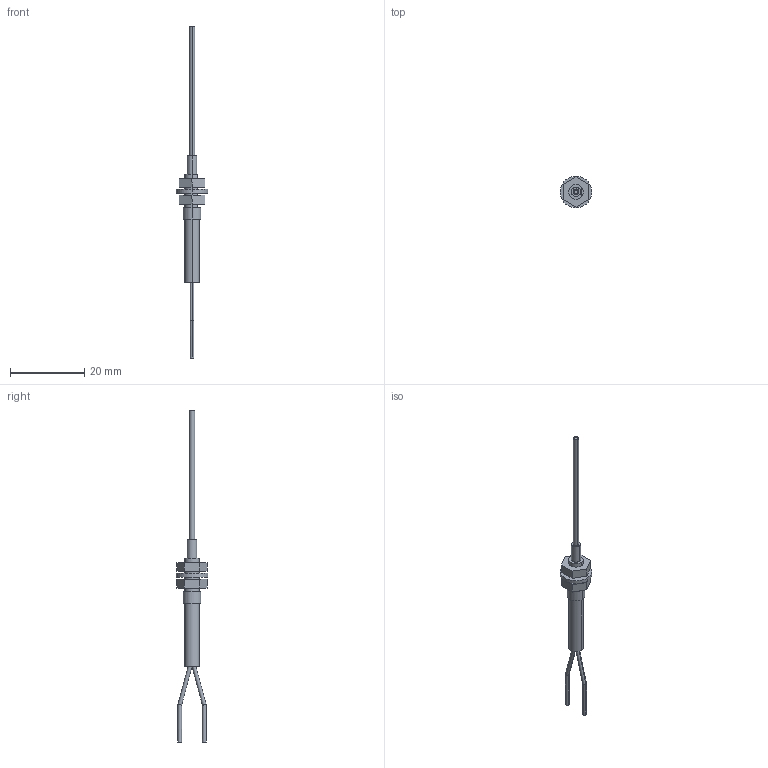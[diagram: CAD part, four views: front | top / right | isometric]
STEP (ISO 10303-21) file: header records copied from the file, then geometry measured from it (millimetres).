
FILE_DESCRIPTION (( 'STEP AP203' ), '1' );
FILE_NAME ('FD-NFM2S4.STEP', '2005-09-04T10:10:34', ( '川島良英' ), ( ' ' ), 'SwSTEP 2.0', 'SolidWorks 2004251', '' );
FILE_SCHEMA (( 'CONFIG_CONTROL_DESIGN' ));
Length unit declared in the file: millimetre
Products named in the file (1): FD-NFM2S4
Bounding box: 8.5 x 8.5 x 89.45 mm (x, y, z)
Volume: 677.8 mm3; surface area: 1162.8 mm2
Topology: 4 solids, 4 shells, 57 faces, 124 edges, 81 vertices
Faces by surface type: cylinder 29, plane 28
Entity records: 1647 total; most frequent: CARTESIAN_POINT 293, DIRECTION 276, ORIENTED_EDGE 248, EDGE_CURVE 124, AXIS2_PLACEMENT_3D 104, VERTEX_POINT 81, EDGE_LOOP 69, VECTOR 68
